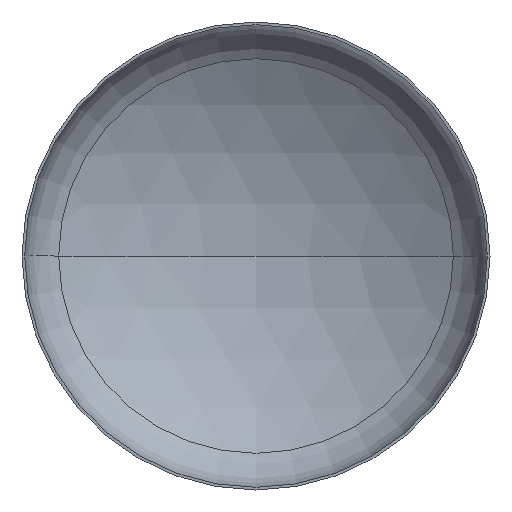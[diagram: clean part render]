
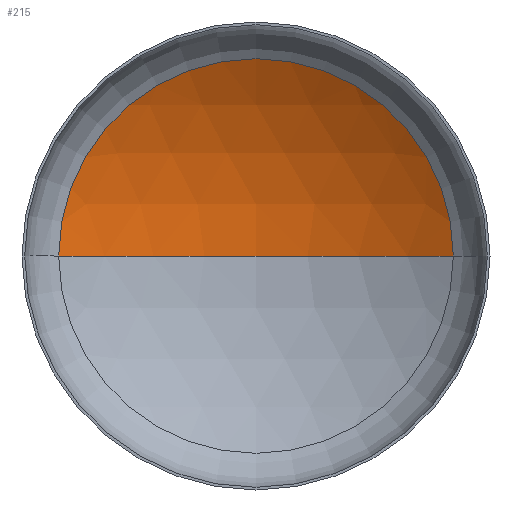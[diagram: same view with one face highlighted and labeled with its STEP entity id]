
A CAD part, front view. The second image highlights one B-rep face of the part: STEP entity #215.
In plain terms, the highlighted spherical face has radius 6400 mm.
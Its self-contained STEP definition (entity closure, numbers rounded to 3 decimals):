
#17 = AXIS2_PLACEMENT_3D ( 'NONE', #265, #237, #26 ) ;
#26 = DIRECTION ( 'NONE',  ( -1., 0., 0. ) ) ;
#47 = ORIENTED_EDGE ( 'NONE', *, *, #104, .T. ) ;
#50 = AXIS2_PLACEMENT_3D ( 'NONE', #189, #191, #377 ) ;
#51 = AXIS2_PLACEMENT_3D ( 'NONE', #221, #213, #212 ) ;
#52 = AXIS2_PLACEMENT_3D ( 'NONE', #298, #293, #291 ) ;
#54 = CIRCLE ( 'NONE', #52, 3372.07 ) ;
#58 = ORIENTED_EDGE ( 'NONE', *, *, #106, .T. ) ;
#104 = EDGE_CURVE ( 'NONE', #159, #142, #54, .T. ) ;
#106 = EDGE_CURVE ( 'NONE', #143, #159, #315, .T. ) ;
#108 = EDGE_CURVE ( 'NONE', #143, #142, #192, .T. ) ;
#137 = ORIENTED_EDGE ( 'NONE', *, *, #108, .F. ) ;
#142 = VERTEX_POINT ( 'NONE', #217 ) ;
#143 = VERTEX_POINT ( 'NONE', #289 ) ;
#145 = EDGE_LOOP ( 'NONE', ( #137, #58, #47 ) ) ;
#159 = VERTEX_POINT ( 'NONE', #247 ) ;
#189 = CARTESIAN_POINT ( 'NONE',  ( 0., -4254.169, 0. ) ) ;
#191 = DIRECTION ( 'NONE',  ( 0., 0., 1. ) ) ;
#192 = CIRCLE ( 'NONE', #50, 6400. ) ;
#212 = DIRECTION ( 'NONE',  ( -1., 0., 0. ) ) ;
#213 = DIRECTION ( 'NONE',  ( 0., 0., -1. ) ) ;
#215 = ADVANCED_FACE ( 'NONE', ( #349 ), #300, .F. ) ;
#217 = CARTESIAN_POINT ( 'NONE',  ( -3372.07, 1185.421, 0. ) ) ;
#221 = CARTESIAN_POINT ( 'NONE',  ( 0., -4254.169, 0. ) ) ;
#237 = DIRECTION ( 'NONE',  ( 0., 0., -1. ) ) ;
#247 = CARTESIAN_POINT ( 'NONE',  ( 3372.07, 1185.421, 0. ) ) ;
#265 = CARTESIAN_POINT ( 'NONE',  ( 0., -4254.169, 0. ) ) ;
#289 = CARTESIAN_POINT ( 'NONE',  ( 0., 2145.831, 0. ) ) ;
#291 = DIRECTION ( 'NONE',  ( 1., 0., 0. ) ) ;
#293 = DIRECTION ( 'NONE',  ( 0., -1., 0. ) ) ;
#298 = CARTESIAN_POINT ( 'NONE',  ( 0., 1185.421, 0. ) ) ;
#300 = SPHERICAL_SURFACE ( 'NONE', #17, 6400. ) ;
#315 = CIRCLE ( 'NONE', #51, 6400. ) ;
#349 = FACE_OUTER_BOUND ( 'NONE', #145, .T. ) ;
#377 = DIRECTION ( 'NONE',  ( 1., 0., 0. ) ) ;
